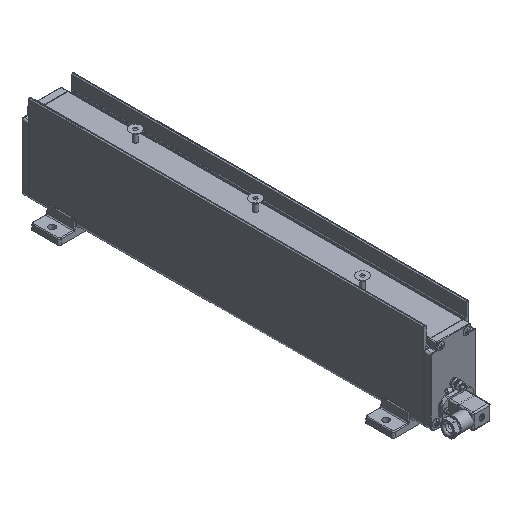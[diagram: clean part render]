
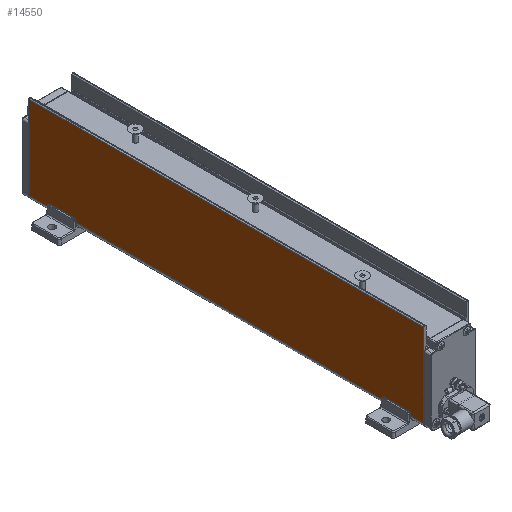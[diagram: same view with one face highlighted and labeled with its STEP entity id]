
A CAD part, isometric view. The second image highlights one B-rep face of the part: STEP entity #14550.
In plain terms, the highlighted planar face has unit normal (-1, 0, 0).
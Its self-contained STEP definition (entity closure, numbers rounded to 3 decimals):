
#14550=ADVANCED_FACE('', (#14560), #14570, .T.);
#73030=AXIS2_PLACEMENT_3D('Ax2Pl3d', #73040, #73050, #73060);
#266420=CARTESIAN_POINT('', (600.96,-3279.,-77.565));
#266430=CARTESIAN_POINT('', (600.96,-2869.,-77.565));
#266440=CARTESIAN_POINT('', (600.96,-2869.,-77.565));
#266450=CARTESIAN_POINT('', (600.96,-3279.,-163.865));
#266460=CARTESIAN_POINT('', (600.96,-2869.,-163.865));
#266470=CARTESIAN_POINT('', (600.96,-2869.,-163.865));
#73040=CARTESIAN_POINT('HicPkt', (600.96,-3136.5,-77.565))
;
#266480=CARTESIAN_POINT('', (600.96,-3279.,-163.865));
#266490=CARTESIAN_POINT('', (600.96,-2869.,-77.565));
#434620=DIRECTION('', (0.,1.,0.));
#434630=DIRECTION('', (0.,1.,0.));
#73050=DIRECTION('Axis', (-1.,0.,0.)
);
#73060=DIRECTION('RefDirection', (0.,
0.,-1.));
#434640=DIRECTION('', (0.,0.,-1.));
#434650=DIRECTION('', (0.,0.,1.));
#475070=EDGE_CURVE('', #475040, #475060, #475080, .T.);
#475110=EDGE_CURVE('', #475100, #475120, #475130, .T.);
#475150=EDGE_CURVE('', #475040, #475100, #475160, .T.);
#475170=EDGE_CURVE('', #475120, #475060, #475180, .T.);
#561640=EDGE_LOOP('Edge_loop', (#561650,#561660,#561670,#561680));
#14560=FACE_OUTER_BOUND('Face_outer_bound', #561640, .T.);
#475080=LINE('Line', #266440, #662860);
#475130=LINE('Line', #266460, #662870);
#475160=LINE('Line', #266480, #662880);
#475180=LINE('Line', #266490, #662890);
#561650=ORIENTED_EDGE('', *, *, #475150, .F.);
#561660=ORIENTED_EDGE('', *, *, #475070, .T.);
#561670=ORIENTED_EDGE('', *, *, #475170, .F.);
#561680=ORIENTED_EDGE('', *, *, #475110, .F.);
#14570=PLANE('Plane', #73030);
#662860=VECTOR('', #434620, 410.);
#662870=VECTOR('', #434630, 410.);
#662880=VECTOR('', #434640, 86.3);
#662890=VECTOR('', #434650, 86.3);
#475040=VERTEX_POINT('', #266420);
#475060=VERTEX_POINT('', #266430);
#475100=VERTEX_POINT('', #266450);
#475120=VERTEX_POINT('', #266470);
